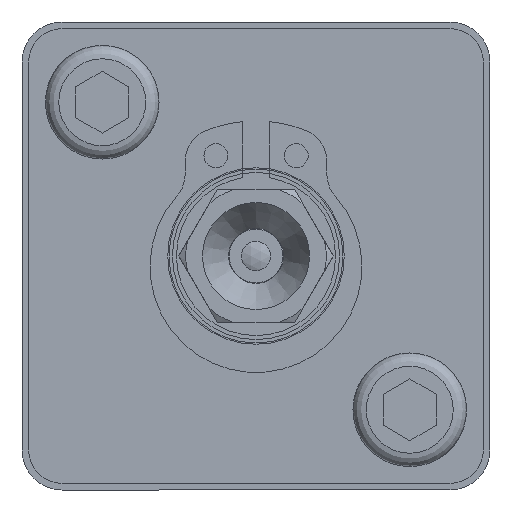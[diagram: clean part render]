
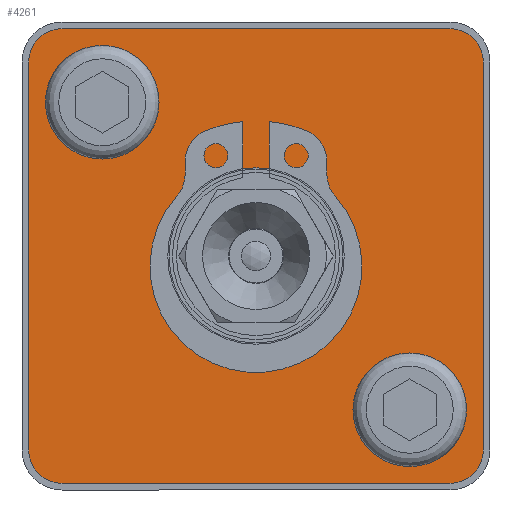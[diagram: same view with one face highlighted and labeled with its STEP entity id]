
A CAD part, front view. The second image highlights one B-rep face of the part: STEP entity #4261.
In plain terms, the highlighted planar face has unit normal (0, -1, 0).
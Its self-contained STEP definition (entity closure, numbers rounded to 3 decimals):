
#116=LINE('',#6315,#384);
#118=LINE('',#6319,#386);
#122=LINE('',#6328,#390);
#126=LINE('',#6342,#394);
#384=VECTOR('',#5183,1000.);
#386=VECTOR('',#5187,1000.);
#390=VECTOR('',#5193,1000.);
#394=VECTOR('',#5205,1000.);
#643=PLANE('',#4639);
#921=ORIENTED_EDGE('',*,*,#1780,.T.);
#922=ORIENTED_EDGE('',*,*,#1781,.T.);
#923=ORIENTED_EDGE('',*,*,#1769,.T.);
#924=ORIENTED_EDGE('',*,*,#1758,.T.);
#925=ORIENTED_EDGE('',*,*,#1782,.T.);
#926=ORIENTED_EDGE('',*,*,#1760,.T.);
#927=ORIENTED_EDGE('',*,*,#1783,.T.);
#928=ORIENTED_EDGE('',*,*,#1764,.T.);
#929=ORIENTED_EDGE('',*,*,#1784,.T.);
#930=ORIENTED_EDGE('',*,*,#1770,.T.);
#931=ORIENTED_EDGE('',*,*,#1785,.T.);
#1758=EDGE_CURVE('',#2217,#2216,#116,.T.);
#1760=EDGE_CURVE('',#2218,#2219,#118,.T.);
#1764=EDGE_CURVE('',#2222,#2223,#122,.T.);
#1769=EDGE_CURVE('',#2227,#2227,#2526,.T.);
#1770=EDGE_CURVE('',#2228,#2229,#126,.T.);
#1780=EDGE_CURVE('',#2234,#2234,#2533,.T.);
#1781=EDGE_CURVE('',#2235,#2235,#2534,.T.);
#1782=EDGE_CURVE('',#2216,#2218,#2535,.T.);
#1783=EDGE_CURVE('',#2219,#2222,#2536,.T.);
#1784=EDGE_CURVE('',#2223,#2228,#2537,.T.);
#1785=EDGE_CURVE('',#2229,#2217,#2538,.T.);
#2216=VERTEX_POINT('',#6314);
#2217=VERTEX_POINT('',#6316);
#2218=VERTEX_POINT('',#6320);
#2219=VERTEX_POINT('',#6321);
#2222=VERTEX_POINT('',#6329);
#2223=VERTEX_POINT('',#6330);
#2227=VERTEX_POINT('',#6340);
#2228=VERTEX_POINT('',#6343);
#2229=VERTEX_POINT('',#6344);
#2234=VERTEX_POINT('',#6361);
#2235=VERTEX_POINT('',#6363);
#2526=CIRCLE('',#4630,6.6);
#2533=CIRCLE('',#4640,3.);
#2534=CIRCLE('',#4641,3.);
#2535=CIRCLE('',#4642,2.5);
#2536=CIRCLE('',#4643,2.5);
#2537=CIRCLE('',#4644,2.5);
#2538=CIRCLE('',#4645,2.5);
#2772=EDGE_LOOP('',(#921));
#2773=EDGE_LOOP('',(#922));
#2774=EDGE_LOOP('',(#923));
#2775=EDGE_LOOP('',(#924,#925,#926,#927,#928,#929,#930,#931));
#3089=FACE_BOUND('',#2772,.T.);
#3090=FACE_BOUND('',#2773,.T.);
#3091=FACE_BOUND('',#2774,.T.);
#3092=FACE_BOUND('',#2775,.T.);
#4261=ADVANCED_FACE('',(#3089,#3090,#3091,#3092),#643,.T.);
#4630=AXIS2_PLACEMENT_3D('',#6339,#5201,#5202);
#4639=AXIS2_PLACEMENT_3D('',#6359,#5223,#5224);
#4640=AXIS2_PLACEMENT_3D('',#6360,#5225,#5226);
#4641=AXIS2_PLACEMENT_3D('',#6362,#5227,#5228);
#4642=AXIS2_PLACEMENT_3D('',#6364,#5229,#5230);
#4643=AXIS2_PLACEMENT_3D('',#6365,#5231,#5232);
#4644=AXIS2_PLACEMENT_3D('',#6366,#5233,#5234);
#4645=AXIS2_PLACEMENT_3D('',#6367,#5235,#5236);
#5183=DIRECTION('',(0.,0.,-1.));
#5187=DIRECTION('',(1.,0.,0.));
#5193=DIRECTION('',(0.,0.,1.));
#5201=DIRECTION('',(0.,1.,0.));
#5202=DIRECTION('',(1.,0.,0.));
#5205=DIRECTION('',(-1.,0.,0.));
#5223=DIRECTION('',(0.,-1.,0.));
#5224=DIRECTION('',(0.,0.,-1.));
#5225=DIRECTION('',(0.,1.,0.));
#5226=DIRECTION('',(0.,0.,-1.));
#5227=DIRECTION('',(0.,1.,0.));
#5228=DIRECTION('',(0.,0.,-1.));
#5229=DIRECTION('',(0.,-1.,0.));
#5230=DIRECTION('',(0.,0.,-1.));
#5231=DIRECTION('',(0.,-1.,0.));
#5232=DIRECTION('',(0.,0.,-1.));
#5233=DIRECTION('',(0.,-1.,0.));
#5234=DIRECTION('',(0.,0.,-1.));
#5235=DIRECTION('',(0.,-1.,0.));
#5236=DIRECTION('',(0.,0.,-1.));
#6314=CARTESIAN_POINT('',(-17.,0.,-14.5));
#6315=CARTESIAN_POINT('',(-17.,0.,17.));
#6316=CARTESIAN_POINT('',(-17.,0.,14.5));
#6319=CARTESIAN_POINT('',(-17.,0.,-17.));
#6320=CARTESIAN_POINT('',(-14.5,0.,-17.));
#6321=CARTESIAN_POINT('',(14.5,0.,-17.));
#6328=CARTESIAN_POINT('',(17.,0.,-17.));
#6329=CARTESIAN_POINT('',(17.,0.,-14.5));
#6330=CARTESIAN_POINT('',(17.,0.,14.5));
#6339=CARTESIAN_POINT('',(0.,0.,0.));
#6340=CARTESIAN_POINT('',(6.6,0.,0.));
#6342=CARTESIAN_POINT('',(17.,0.,17.));
#6343=CARTESIAN_POINT('',(14.5,0.,17.));
#6344=CARTESIAN_POINT('',(-14.5,0.,17.));
#6359=CARTESIAN_POINT('',(0.,0.,0.));
#6360=CARTESIAN_POINT('',(11.5,0.,-11.5));
#6361=CARTESIAN_POINT('',(11.5,0.,-14.5));
#6362=CARTESIAN_POINT('',(-11.5,0.,11.5));
#6363=CARTESIAN_POINT('',(-11.5,0.,8.5));
#6364=CARTESIAN_POINT('',(-14.5,0.,-14.5));
#6365=CARTESIAN_POINT('',(14.5,0.,-14.5));
#6366=CARTESIAN_POINT('',(14.5,0.,14.5));
#6367=CARTESIAN_POINT('',(-14.5,0.,14.5));
